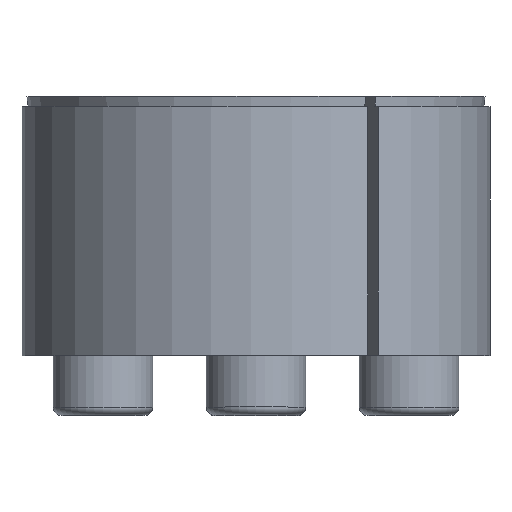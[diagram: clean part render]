
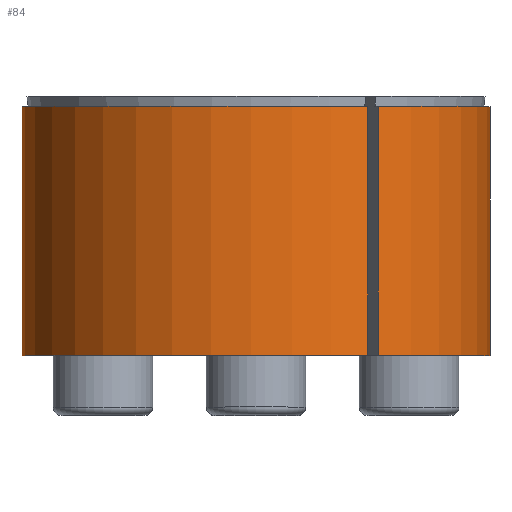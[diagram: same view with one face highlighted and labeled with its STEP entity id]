
A CAD part, top view. The second image highlights one B-rep face of the part: STEP entity #84.
In plain terms, the highlighted cylindrical face has radius 23.5 mm (diameter 47 mm), a partial arc.
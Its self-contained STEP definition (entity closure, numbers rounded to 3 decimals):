
#84 = ADVANCED_FACE( '', ( #169 ), #170, .T. );
#169 = FACE_OUTER_BOUND( '', #261, .T. );
#170 = CYLINDRICAL_SURFACE( '', #262, 23.5 );
#261 = EDGE_LOOP( '', ( #432, #433, #434, #435 ) );
#262 = AXIS2_PLACEMENT_3D( '', #436, #437, #438 );
#432 = ORIENTED_EDGE( '', *, *, #558, .T. );
#433 = ORIENTED_EDGE( '', *, *, #552, .T. );
#434 = ORIENTED_EDGE( '', *, *, #568, .T. );
#435 = ORIENTED_EDGE( '', *, *, #565, .T. );
#436 = CARTESIAN_POINT( '', ( 0., -60., 0. ) );
#437 = DIRECTION( '', ( 0., -1., 0. ) );
#438 = DIRECTION( '', ( 0., 0., 1. ) );
#552 = EDGE_CURVE( '', #687, #685, #688, .F. );
#558 = EDGE_CURVE( '', #695, #687, #696, .T. );
#565 = EDGE_CURVE( '', #704, #695, #705, .T. );
#568 = EDGE_CURVE( '', #685, #704, #708, .T. );
#685 = VERTEX_POINT( '', #926 );
#687 = VERTEX_POINT( '', #929 );
#688 = LINE( '', #930, #931 );
#695 = VERTEX_POINT( '', #940 );
#696 = CIRCLE( '', #941, 23.5 );
#704 = VERTEX_POINT( '', #951 );
#705 = LINE( '', #952, #953 );
#708 = CIRCLE( '', #957, 23.5 );
#926 = CARTESIAN_POINT( '', ( 12.255, -13., 20.051 ) );
#929 = CARTESIAN_POINT( '', ( 12.255, 12., 20.051 ) );
#930 = CARTESIAN_POINT( '', ( 12.255, -60., 20.051 ) );
#931 = VECTOR( '', #1047, 1000. );
#940 = CARTESIAN_POINT( '', ( 11.238, 12., 20.639 ) );
#941 = AXIS2_PLACEMENT_3D( '', #1053, #1054, #1055 );
#951 = CARTESIAN_POINT( '', ( 11.238, -13., 20.639 ) );
#952 = CARTESIAN_POINT( '', ( 11.238, -60., 20.639 ) );
#953 = VECTOR( '', #1061, 1000. );
#957 = AXIS2_PLACEMENT_3D( '', #1063, #1064, #1065 );
#1047 = DIRECTION( '', ( 0., 1., 0. ) );
#1053 = CARTESIAN_POINT( '', ( 0., 12., 0. ) );
#1054 = DIRECTION( '', ( 0., -1., 0. ) );
#1055 = DIRECTION( '', ( 0., 0., -1. ) );
#1061 = DIRECTION( '', ( 0., 1., 0. ) );
#1063 = CARTESIAN_POINT( '', ( 0., -13., 0. ) );
#1064 = DIRECTION( '', ( 0., 1., 0. ) );
#1065 = DIRECTION( '', ( 0., 0., 1. ) );
